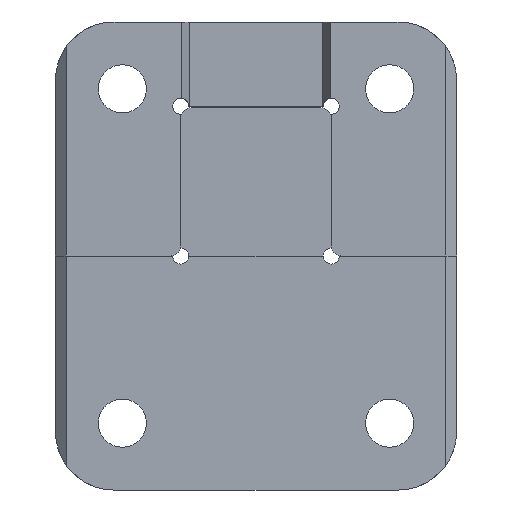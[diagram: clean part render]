
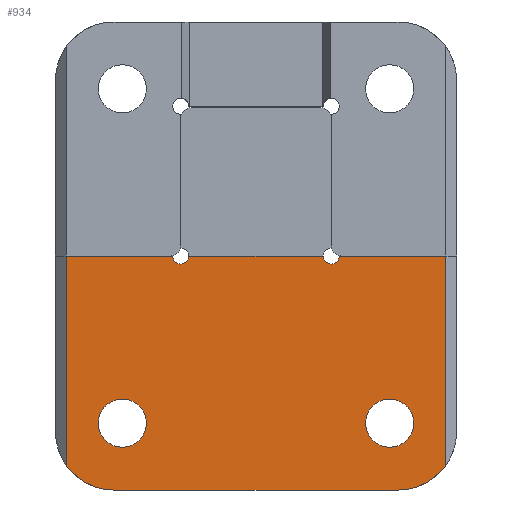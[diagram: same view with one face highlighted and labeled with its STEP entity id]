
A CAD part, front view. The second image highlights one B-rep face of the part: STEP entity #934.
In plain terms, the highlighted planar face has unit normal (0, -1, 0).
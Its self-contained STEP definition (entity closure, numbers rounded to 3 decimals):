
#40=PLANE('',#1024);
#73=CIRCLE('',#1010,0.762);
#79=CIRCLE('',#1022,0.762);
#81=CIRCLE('',#1025,2.286);
#82=CIRCLE('',#1026,2.286);
#83=CIRCLE('',#1027,5.563);
#84=CIRCLE('',#1028,5.563);
#145=ORIENTED_EDGE('',*,*,#399,.F.);
#146=ORIENTED_EDGE('',*,*,#400,.F.);
#147=ORIENTED_EDGE('',*,*,#401,.F.);
#148=ORIENTED_EDGE('',*,*,#402,.T.);
#149=ORIENTED_EDGE('',*,*,#403,.F.);
#150=ORIENTED_EDGE('',*,*,#396,.T.);
#151=ORIENTED_EDGE('',*,*,#404,.F.);
#152=ORIENTED_EDGE('',*,*,#378,.T.);
#153=ORIENTED_EDGE('',*,*,#405,.F.);
#154=ORIENTED_EDGE('',*,*,#406,.F.);
#155=ORIENTED_EDGE('',*,*,#407,.F.);
#156=ORIENTED_EDGE('',*,*,#408,.F.);
#378=EDGE_CURVE('',#503,#508,#73,.T.);
#396=EDGE_CURVE('',#521,#520,#79,.T.);
#399=EDGE_CURVE('',#523,#523,#81,.T.);
#400=EDGE_CURVE('',#524,#524,#82,.T.);
#401=EDGE_CURVE('',#525,#526,#83,.T.);
#402=EDGE_CURVE('',#525,#527,#611,.T.);
#403=EDGE_CURVE('',#521,#527,#612,.T.);
#404=EDGE_CURVE('',#503,#520,#613,.T.);
#405=EDGE_CURVE('',#528,#508,#614,.T.);
#406=EDGE_CURVE('',#529,#528,#615,.T.);
#407=EDGE_CURVE('',#530,#529,#84,.T.);
#408=EDGE_CURVE('',#526,#530,#616,.T.);
#503=VERTEX_POINT('',#1406);
#508=VERTEX_POINT('',#1415);
#520=VERTEX_POINT('',#1451);
#521=VERTEX_POINT('',#1453);
#523=VERTEX_POINT('',#1459);
#524=VERTEX_POINT('',#1461);
#525=VERTEX_POINT('',#1463);
#526=VERTEX_POINT('',#1464);
#527=VERTEX_POINT('',#1466);
#528=VERTEX_POINT('',#1470);
#529=VERTEX_POINT('',#1472);
#530=VERTEX_POINT('',#1474);
#611=LINE('',#1465,#693);
#612=LINE('',#1467,#694);
#613=LINE('',#1468,#695);
#614=LINE('',#1469,#696);
#615=LINE('',#1471,#697);
#616=LINE('',#1475,#698);
#693=VECTOR('',#1171,1000.);
#694=VECTOR('',#1172,1000.);
#695=VECTOR('',#1173,1000.);
#696=VECTOR('',#1174,1000.);
#697=VECTOR('',#1175,1000.);
#698=VECTOR('',#1178,1000.);
#766=EDGE_LOOP('',(#145));
#767=EDGE_LOOP('',(#146));
#768=EDGE_LOOP('',(#147,#148,#149,#150,#151,#152,#153,#154,#155,#156));
#840=FACE_BOUND('',#766,.T.);
#841=FACE_BOUND('',#767,.T.);
#842=FACE_BOUND('',#768,.T.);
#934=ADVANCED_FACE('',(#840,#841,#842),#40,.F.);
#1010=AXIS2_PLACEMENT_3D('',#1416,#1122,#1123);
#1022=AXIS2_PLACEMENT_3D('',#1452,#1158,#1159);
#1024=AXIS2_PLACEMENT_3D('',#1457,#1163,#1164);
#1025=AXIS2_PLACEMENT_3D('',#1458,#1165,#1166);
#1026=AXIS2_PLACEMENT_3D('',#1460,#1167,#1168);
#1027=AXIS2_PLACEMENT_3D('',#1462,#1169,#1170);
#1028=AXIS2_PLACEMENT_3D('',#1473,#1176,#1177);
#1122=DIRECTION('',(0.,1.,0.));
#1123=DIRECTION('',(1.,0.,0.));
#1158=DIRECTION('',(0.,1.,0.));
#1159=DIRECTION('',(1.,0.,0.));
#1163=DIRECTION('',(0.,1.,0.));
#1164=DIRECTION('',(0.,0.,1.));
#1165=DIRECTION('',(0.,-1.,0.));
#1166=DIRECTION('',(0.,0.,-1.));
#1167=DIRECTION('',(0.,-1.,0.));
#1168=DIRECTION('',(0.,0.,-1.));
#1169=DIRECTION('',(0.,1.,0.));
#1170=DIRECTION('',(1.,0.,0.));
#1171=DIRECTION('',(0.,0.,1.));
#1172=DIRECTION('',(1.,0.,0.));
#1173=DIRECTION('',(1.,0.,0.));
#1174=DIRECTION('',(1.,0.,0.));
#1175=DIRECTION('',(0.,0.,1.));
#1176=DIRECTION('',(0.,1.,0.));
#1177=DIRECTION('',(1.,0.,0.));
#1178=DIRECTION('',(-1.,0.,0.));
#1406=CARTESIAN_POINT('',(-6.388,0.,0.));
#1415=CARTESIAN_POINT('',(-7.912,0.,0.));
#1416=CARTESIAN_POINT('',(-7.15,0.,0.));
#1451=CARTESIAN_POINT('',(6.388,0.,0.));
#1452=CARTESIAN_POINT('',(7.15,0.,0.));
#1453=CARTESIAN_POINT('',(7.912,0.,0.));
#1457=CARTESIAN_POINT('',(-13.487,0.,-16.662));
#1458=CARTESIAN_POINT('',(-12.7,0.,-15.875));
#1459=CARTESIAN_POINT('',(-12.7,0.,-18.161));
#1460=CARTESIAN_POINT('',(12.7,0.,-15.875));
#1461=CARTESIAN_POINT('',(12.7,0.,-18.161));
#1462=CARTESIAN_POINT('',(13.487,0.,-16.662));
#1463=CARTESIAN_POINT('',(18.034,0.,-19.867));
#1464=CARTESIAN_POINT('',(13.487,0.,-22.225));
#1465=CARTESIAN_POINT('',(18.034,0.,-22.225));
#1466=CARTESIAN_POINT('',(18.034,0.,0.));
#1467=CARTESIAN_POINT('',(7.912,0.,0.));
#1468=CARTESIAN_POINT('',(-13.487,0.,0.));
#1469=CARTESIAN_POINT('',(-19.05,0.,0.));
#1470=CARTESIAN_POINT('',(-18.034,0.,0.));
#1471=CARTESIAN_POINT('',(-18.034,0.,-22.225));
#1472=CARTESIAN_POINT('',(-18.034,0.,-19.867));
#1473=CARTESIAN_POINT('',(-13.487,0.,-16.662));
#1474=CARTESIAN_POINT('',(-13.487,0.,-22.225));
#1475=CARTESIAN_POINT('',(13.487,0.,-22.225));
